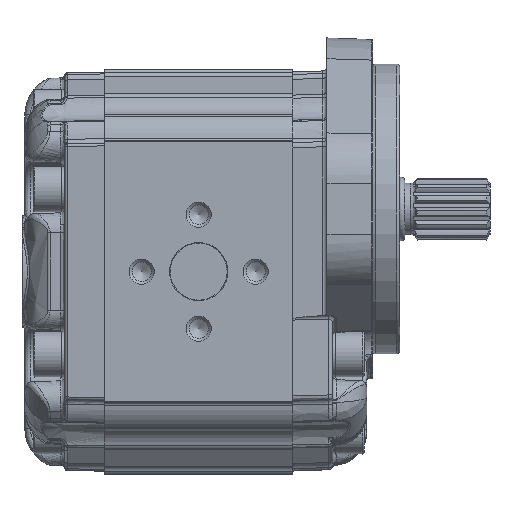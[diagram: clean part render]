
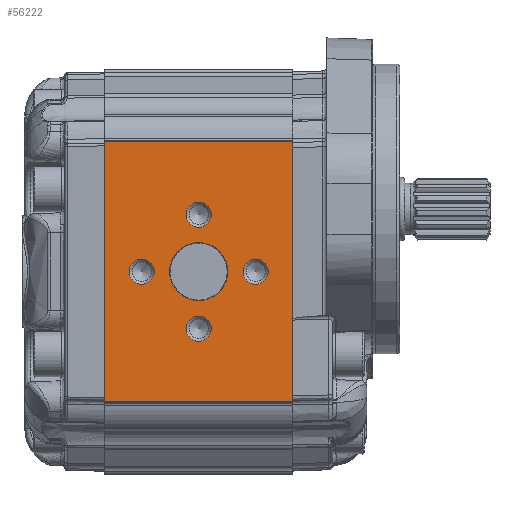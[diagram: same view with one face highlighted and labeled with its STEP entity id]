
A CAD part, left-side view. The second image highlights one B-rep face of the part: STEP entity #56222.
In plain terms, the highlighted planar face has unit normal (-1, 0, 0).
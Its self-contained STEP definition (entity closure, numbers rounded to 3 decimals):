
#6461=LINE('',#106767,#8095);
#6472=LINE('',#106852,#8106);
#6510=LINE('',#106960,#8144);
#6511=LINE('',#106961,#8145);
#8095=VECTOR('',#62851,1000.);
#8106=VECTOR('',#62926,1000.);
#8144=VECTOR('',#63052,1000.);
#8145=VECTOR('',#63053,1000.);
#14087=ORIENTED_EDGE('',*,*,#23698,.T.);
#14088=ORIENTED_EDGE('',*,*,#23699,.T.);
#14089=ORIENTED_EDGE('',*,*,#23700,.T.);
#14090=ORIENTED_EDGE('',*,*,#23701,.T.);
#14091=ORIENTED_EDGE('',*,*,#23702,.T.);
#14092=ORIENTED_EDGE('',*,*,#23602,.F.);
#14093=ORIENTED_EDGE('',*,*,#23703,.T.);
#14094=ORIENTED_EDGE('',*,*,#23644,.F.);
#14095=ORIENTED_EDGE('',*,*,#23704,.T.);
#23602=EDGE_CURVE('',#28736,#28737,#6461,.T.);
#23644=EDGE_CURVE('',#28778,#28779,#6472,.T.);
#23698=EDGE_CURVE('',#28800,#28800,#31581,.F.);
#23699=EDGE_CURVE('',#28801,#28801,#31582,.F.);
#23700=EDGE_CURVE('',#28802,#28802,#31583,.F.);
#23701=EDGE_CURVE('',#28803,#28803,#31584,.F.);
#23702=EDGE_CURVE('',#28804,#28804,#31585,.F.);
#23703=EDGE_CURVE('',#28736,#28779,#6510,.F.);
#23704=EDGE_CURVE('',#28778,#28737,#6511,.F.);
#28736=VERTEX_POINT('',#106766);
#28737=VERTEX_POINT('',#106768);
#28778=VERTEX_POINT('',#106851);
#28779=VERTEX_POINT('',#106853);
#28800=VERTEX_POINT('',#106951);
#28801=VERTEX_POINT('',#106953);
#28802=VERTEX_POINT('',#106955);
#28803=VERTEX_POINT('',#106957);
#28804=VERTEX_POINT('',#106959);
#31581=CIRCLE('',#58884,4.4);
#31582=CIRCLE('',#58885,4.4);
#31583=CIRCLE('',#58886,4.4);
#31584=CIRCLE('',#58887,4.4);
#31585=CIRCLE('',#58888,10.2);
#32924=EDGE_LOOP('',(#14087));
#32925=EDGE_LOOP('',(#14088));
#32926=EDGE_LOOP('',(#14089));
#32927=EDGE_LOOP('',(#14090));
#32928=EDGE_LOOP('',(#14091));
#32929=EDGE_LOOP('',(#14092,#14093,#14094,#14095));
#35657=FACE_BOUND('',#32924,.T.);
#35658=FACE_BOUND('',#32925,.T.);
#35659=FACE_BOUND('',#32926,.T.);
#35660=FACE_BOUND('',#32927,.T.);
#35661=FACE_BOUND('',#32928,.T.);
#35662=FACE_BOUND('',#32929,.T.);
#37473=PLANE('',#58883);
#56222=ADVANCED_FACE('',(#35657,#35658,#35659,#35660,#35661,#35662),#37473,
 .T.);
#58883=AXIS2_PLACEMENT_3D('',#106949,#63040,#63041);
#58884=AXIS2_PLACEMENT_3D('',#106950,#63042,#63043);
#58885=AXIS2_PLACEMENT_3D('',#106952,#63044,#63045);
#58886=AXIS2_PLACEMENT_3D('',#106954,#63046,#63047);
#58887=AXIS2_PLACEMENT_3D('',#106956,#63048,#63049);
#58888=AXIS2_PLACEMENT_3D('',#106958,#63050,#63051);
#62851=DIRECTION('',(0.,0.,1.));
#62926=DIRECTION('',(0.,0.,-1.));
#63040=DIRECTION('',(-1.,0.,0.));
#63041=DIRECTION('',(0.,0.,-1.));
#63042=DIRECTION('',(-1.,0.,0.));
#63043=DIRECTION('',(0.,0.,-1.));
#63044=DIRECTION('',(-1.,0.,0.));
#63045=DIRECTION('',(0.,0.,-1.));
#63046=DIRECTION('',(-1.,0.,0.));
#63047=DIRECTION('',(0.,0.,-1.));
#63048=DIRECTION('',(-1.,0.,0.));
#63049=DIRECTION('',(0.,0.,-1.));
#63050=DIRECTION('',(-1.,0.,0.));
#63051=DIRECTION('',(0.,0.,-1.));
#63052=DIRECTION('',(0.,1.,0.));
#63053=DIRECTION('',(0.,-1.,0.));
#106766=CARTESIAN_POINT('',(-57.5,66.,-45.5));
#106767=CARTESIAN_POINT('',(-57.5,66.,-84.819));
#106768=CARTESIAN_POINT('',(-57.5,66.,45.5));
#106851=CARTESIAN_POINT('',(-57.5,0.,45.5));
#106852=CARTESIAN_POINT('',(-57.5,0.,-44.978));
#106853=CARTESIAN_POINT('',(-57.5,0.,-45.5));
#106949=CARTESIAN_POINT('',(-57.5,-155.571,-84.819));
#106950=CARTESIAN_POINT('',(-57.5,33.,20.));
#106951=CARTESIAN_POINT('',(-57.5,33.,15.6));
#106952=CARTESIAN_POINT('',(-57.5,53.,0.));
#106953=CARTESIAN_POINT('',(-57.5,53.,-4.4));
#106954=CARTESIAN_POINT('',(-57.5,33.,-20.));
#106955=CARTESIAN_POINT('',(-57.5,33.,-24.4));
#106956=CARTESIAN_POINT('',(-57.5,13.,0.));
#106957=CARTESIAN_POINT('',(-57.5,13.,-4.4));
#106958=CARTESIAN_POINT('',(-57.5,33.,0.));
#106959=CARTESIAN_POINT('',(-57.5,33.,-10.2));
#106960=CARTESIAN_POINT('',(-57.5,-155.571,-45.5));
#106961=CARTESIAN_POINT('',(-57.5,-155.571,45.5));
